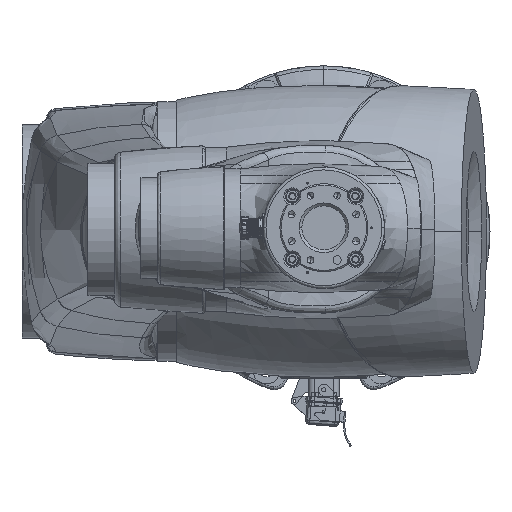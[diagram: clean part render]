
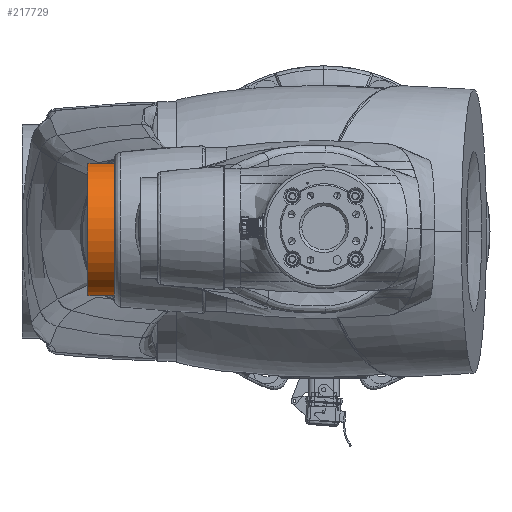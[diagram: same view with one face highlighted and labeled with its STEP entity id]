
A CAD part, top view. The second image highlights one B-rep face of the part: STEP entity #217729.
In plain terms, the highlighted cylindrical face has radius 47.5 mm (diameter 95 mm), a partial arc.
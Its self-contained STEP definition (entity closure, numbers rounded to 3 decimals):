
#3641 = ORIENTED_EDGE ( 'NONE', *, *, #91832, .T. ) ;
#17529 = DIRECTION ( 'NONE',  ( 1., 0., 0. ) ) ;
#21074 = CARTESIAN_POINT ( 'NONE',  ( -50., 730., -47.5 ) ) ;
#21155 = AXIS2_PLACEMENT_3D ( 'NONE', #278157, #279969, #27377 ) ;
#27377 = DIRECTION ( 'NONE',  ( 0., 0., -1. ) ) ;
#50567 = AXIS2_PLACEMENT_3D ( 'NONE', #93635, #258447, #262038 ) ;
#51130 = AXIS2_PLACEMENT_3D ( 'NONE', #89066, #305198, #195296 ) ;
#62836 = VECTOR ( 'NONE', #183053, 1000. ) ;
#72731 = ORIENTED_EDGE ( 'NONE', *, *, #146812, .F. ) ;
#89066 = CARTESIAN_POINT ( 'NONE',  ( -31., 730., 0. ) ) ;
#89213 = CARTESIAN_POINT ( 'NONE',  ( -31., 730., -47.5 ) ) ;
#91832 = EDGE_CURVE ( 'NONE', #245362, #274533, #313583, .T. ) ;
#91842 = CYLINDRICAL_SURFACE ( 'NONE', #50567, 47.5 ) ;
#93635 = CARTESIAN_POINT ( 'NONE',  ( -50., 730., 0. ) ) ;
#105326 = LINE ( 'NONE', #354283, #132238 ) ;
#132238 = VECTOR ( 'NONE', #17529, 1000. ) ;
#146812 = EDGE_CURVE ( 'NONE', #241276, #182817, #238187, .T. ) ;
#182817 = VERTEX_POINT ( 'NONE', #344448 ) ;
#183053 = DIRECTION ( 'NONE',  ( 1., 0., 0. ) ) ;
#195296 = DIRECTION ( 'NONE',  ( 0., 1., 0. ) ) ;
#217729 = ADVANCED_FACE ( 'NONE', ( #234578 ), #91842, .T. ) ;
#221551 = ORIENTED_EDGE ( 'NONE', *, *, #306917, .F. ) ;
#222611 = EDGE_CURVE ( 'NONE', #274533, #182817, #105326, .T. ) ;
#234578 = FACE_OUTER_BOUND ( 'NONE', #324884, .T. ) ;
#236220 = LINE ( 'NONE', #322220, #62836 ) ;
#238187 = CIRCLE ( 'NONE', #51130, 47.5 ) ;
#241276 = VERTEX_POINT ( 'NONE', #89213 ) ;
#245362 = VERTEX_POINT ( 'NONE', #21074 ) ;
#258447 = DIRECTION ( 'NONE',  ( 1., 0., 0. ) ) ;
#262038 = DIRECTION ( 'NONE',  ( 0., 0., -1. ) ) ;
#274533 = VERTEX_POINT ( 'NONE', #341444 ) ;
#278157 = CARTESIAN_POINT ( 'NONE',  ( -50., 730., 0. ) ) ;
#279969 = DIRECTION ( 'NONE',  ( 1., 0., 0. ) ) ;
#305198 = DIRECTION ( 'NONE',  ( 1., 0., 0. ) ) ;
#305257 = ORIENTED_EDGE ( 'NONE', *, *, #222611, .T. ) ;
#306917 = EDGE_CURVE ( 'NONE', #245362, #241276, #236220, .T. ) ;
#313583 = CIRCLE ( 'NONE', #21155, 47.5 ) ;
#322220 = CARTESIAN_POINT ( 'NONE',  ( -50., 730., -47.5 ) ) ;
#324884 = EDGE_LOOP ( 'NONE', ( #3641, #305257, #72731, #221551 ) ) ;
#341444 = CARTESIAN_POINT ( 'NONE',  ( -50., 730., 47.5 ) ) ;
#344448 = CARTESIAN_POINT ( 'NONE',  ( -31., 730., 47.5 ) ) ;
#354283 = CARTESIAN_POINT ( 'NONE',  ( -50., 730., 47.5 ) ) ;
